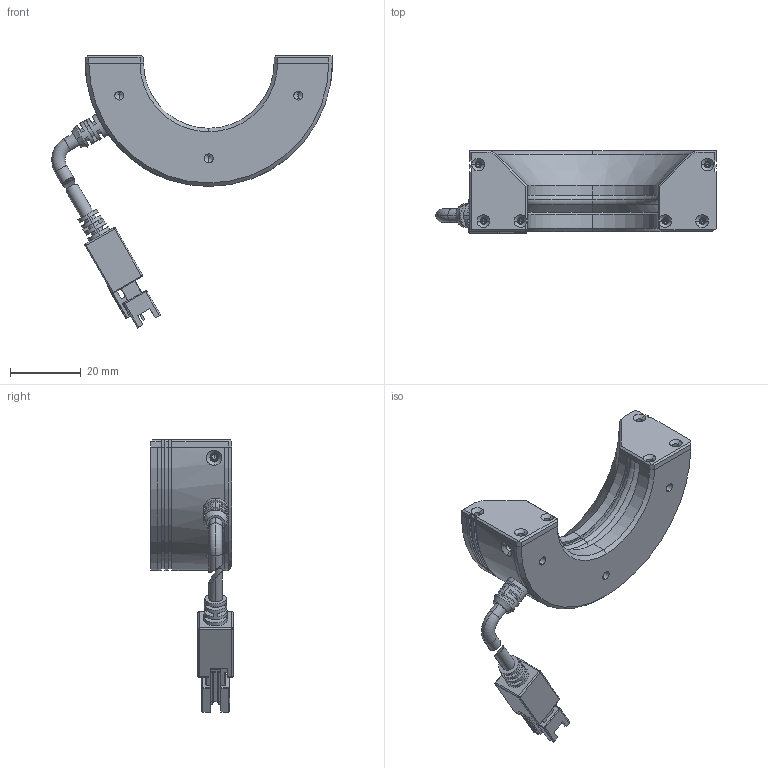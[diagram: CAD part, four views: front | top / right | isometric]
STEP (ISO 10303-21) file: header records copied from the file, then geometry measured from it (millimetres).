
FILE_DESCRIPTION (( 'STEP AP203' ), '1' );
FILE_NAME ('PPX-RIC7045-W.STEP', '2022-05-04T05:36:08', ( 'China' ), ( 'Home' ), 'SwSTEP 2.0', 'SolidWorks 2016', '' );
FILE_SCHEMA (( 'CONFIG_CONTROL_DESIGN' ));
Length unit declared in the file: millimetre
Products named in the file (8): PPX-RIC7045-Z-A1.0勤備裔啣; PPX-RIC7045-Z-A1.0俋褲; 两芯电源线 （母端） - 副本; PPX-RIC7045-W; PPX-RIC7045-Z-A1.0菁褲; PPX-RIC7045-Z-A1.0鞦扞啣; PPX-RIC7045-Z-A1.0腑紩; PPX-RIC7045-Z-A1.0裔啣
Assembly tree (7 placements, depth 2):
  PPX-RIC7045-W
    PPX-RIC7045-Z-A1.0俋褲
    PPX-RIC7045-Z-A1.0菁褲
    PPX-RIC7045-Z-A1.0鞦扞啣
    PPX-RIC7045-Z-A1.0腑紩
    PPX-RIC7045-Z-A1.0裔啣
    PPX-RIC7045-Z-A1.0勤備裔啣
    两芯电源线 （母端） - 副本
Bounding box: 79.52 x 23.4 x 77.11 mm (x, y, z)
Volume: 24682 mm3; surface area: 22854.1 mm2
Topology: 8 solids, 8 shells, 556 faces, 1420 edges, 874 vertices
Faces by surface type: plane 226, cylinder 177, cone 115, torus 32, sphere 4, bspline 2
Entity records: 18094 total; most frequent: CARTESIAN_POINT 3639, DIRECTION 2969, ORIENTED_EDGE 2764, EDGE_CURVE 1382, AXIS2_PLACEMENT_3D 1072, VERTEX_POINT 874, LINE 825, VECTOR 825
